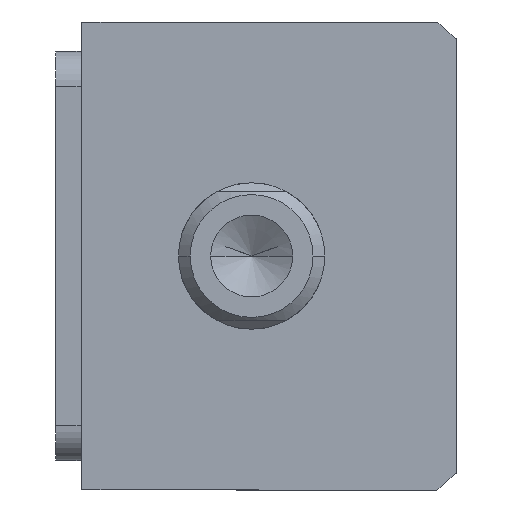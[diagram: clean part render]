
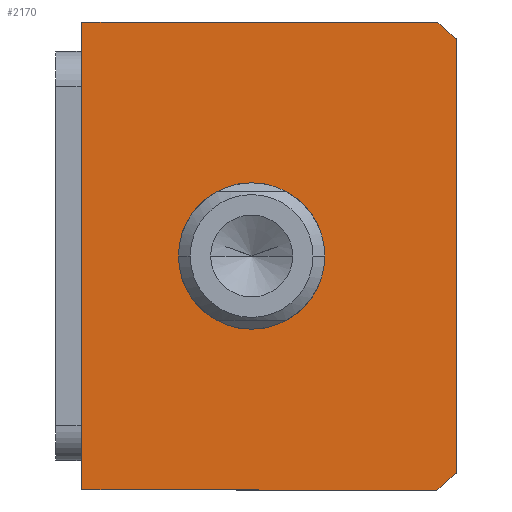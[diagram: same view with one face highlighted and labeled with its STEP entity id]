
A CAD part, front view. The second image highlights one B-rep face of the part: STEP entity #2170.
In plain terms, the highlighted planar face has unit normal (0, -1, 0) as drawn and (0, 0, -1) by its records, which use the part's own axes.
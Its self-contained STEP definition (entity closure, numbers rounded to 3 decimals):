
#205 = AXIS2_PLACEMENT_3D ( 'NONE', #1154, #6987, #1986 ) ;
#585 = EDGE_CURVE ( 'NONE', #5746, #7259, #9619, .T. ) ;
#633 = ORIENTED_EDGE ( 'NONE', *, *, #1572, .F. ) ;
#708 = AXIS2_PLACEMENT_3D ( 'NONE', #5626, #8132, #3166 ) ;
#794 = EDGE_CURVE ( 'NONE', #10099, #3743, #6409, .T. ) ;
#1010 = CARTESIAN_POINT ( 'NONE',  ( -40., -32., 0. ) ) ;
#1154 = CARTESIAN_POINT ( 'NONE',  ( 0., 3., 0. ) ) ;
#1572 = EDGE_CURVE ( 'NONE', #10095, #9011, #2473, .T. ) ;
#1779 = ORIENTED_EDGE ( 'NONE', *, *, #794, .T. ) ;
#1856 = CARTESIAN_POINT ( 'NONE',  ( -40., 32., 0. ) ) ;
#1882 = CIRCLE ( 'NONE', #5928, 12.5 ) ;
#1986 = DIRECTION ( 'NONE',  ( 1., 0., 0. ) ) ;
#2118 = EDGE_CURVE ( 'NONE', #3743, #10099, #1882, .T. ) ;
#2170 = ADVANCED_FACE ( 'NONE', ( #5809, #3576 ), #2324, .F. ) ;
#2194 = VERTEX_POINT ( 'NONE', #7325 ) ;
#2324 = PLANE ( 'NONE',  #708 ) ;
#2370 = CIRCLE ( 'NONE', #205, 51. ) ;
#2473 = LINE ( 'NONE', #3727, #7172 ) ;
#2681 = DIRECTION ( 'NONE',  ( 1., 0., 0. ) ) ;
#2706 = DIRECTION ( 'NONE',  ( -1., 0., 0. ) ) ;
#3150 = DIRECTION ( 'NONE',  ( 0., 1., 0. ) ) ;
#3166 = DIRECTION ( 'NONE',  ( 1., 0., 0. ) ) ;
#3469 = EDGE_CURVE ( 'NONE', #2194, #5746, #7111, .T. ) ;
#3576 = FACE_OUTER_BOUND ( 'NONE', #6011, .T. ) ;
#3727 = CARTESIAN_POINT ( 'NONE',  ( 40., 32., 0. ) ) ;
#3743 = VERTEX_POINT ( 'NONE', #6368 ) ;
#3889 = DIRECTION ( 'NONE',  ( 0., 0., 1. ) ) ;
#3955 = VECTOR ( 'NONE', #2681, 1000. ) ;
#4248 = AXIS2_PLACEMENT_3D ( 'NONE', #5379, #6136, #6964 ) ;
#4294 = DIRECTION ( 'NONE',  ( 1., 0., 0. ) ) ;
#4355 = CARTESIAN_POINT ( 'NONE',  ( -40., 32., 0. ) ) ;
#4913 = VECTOR ( 'NONE', #8591, 1000. ) ;
#5089 = ORIENTED_EDGE ( 'NONE', *, *, #5588, .F. ) ;
#5159 = ORIENTED_EDGE ( 'NONE', *, *, #2118, .T. ) ;
#5379 = CARTESIAN_POINT ( 'NONE',  ( 0., 3., 0. ) ) ;
#5406 = LINE ( 'NONE', #1010, #3955 ) ;
#5588 = EDGE_CURVE ( 'NONE', #7259, #6234, #5406, .T. ) ;
#5626 = CARTESIAN_POINT ( 'NONE',  ( 0., 0., 0. ) ) ;
#5661 = LINE ( 'NONE', #1856, #9512 ) ;
#5746 = VERTEX_POINT ( 'NONE', #8014 ) ;
#5809 = FACE_BOUND ( 'NONE', #9363, .T. ) ;
#5880 = CARTESIAN_POINT ( 'NONE',  ( 37.094, -32., 0. ) ) ;
#5928 = AXIS2_PLACEMENT_3D ( 'NONE', #8856, #3889, #9678 ) ;
#6011 = EDGE_LOOP ( 'NONE', ( #8664, #7759, #6149, #633, #7152, #5089 ) ) ;
#6136 = DIRECTION ( 'NONE',  ( 0., 0., 1. ) ) ;
#6149 = ORIENTED_EDGE ( 'NONE', *, *, #6310, .F. ) ;
#6234 = VERTEX_POINT ( 'NONE', #5880 ) ;
#6310 = EDGE_CURVE ( 'NONE', #9011, #2194, #5661, .T. ) ;
#6368 = CARTESIAN_POINT ( 'NONE',  ( -12.5, 3., 0. ) ) ;
#6409 = CIRCLE ( 'NONE', #4248, 12.5 ) ;
#6557 = CARTESIAN_POINT ( 'NONE',  ( 12.5, 3., 0. ) ) ;
#6964 = DIRECTION ( 'NONE',  ( 1., 0., 0. ) ) ;
#6987 = DIRECTION ( 'NONE',  ( 0., 0., 1. ) ) ;
#7111 = LINE ( 'NONE', #4355, #4913 ) ;
#7152 = ORIENTED_EDGE ( 'NONE', *, *, #7746, .F. ) ;
#7172 = VECTOR ( 'NONE', #3150, 1000. ) ;
#7259 = VERTEX_POINT ( 'NONE', #7290 ) ;
#7290 = CARTESIAN_POINT ( 'NONE',  ( -37.094, -32., 0. ) ) ;
#7325 = CARTESIAN_POINT ( 'NONE',  ( -40., 32., 0. ) ) ;
#7746 = EDGE_CURVE ( 'NONE', #6234, #10095, #2370, .T. ) ;
#7759 = ORIENTED_EDGE ( 'NONE', *, *, #3469, .F. ) ;
#8014 = CARTESIAN_POINT ( 'NONE',  ( -40., -28.639, 0. ) ) ;
#8132 = DIRECTION ( 'NONE',  ( 0., 0., 1. ) ) ;
#8199 = CARTESIAN_POINT ( 'NONE',  ( 40., -28.639, 0. ) ) ;
#8345 = AXIS2_PLACEMENT_3D ( 'NONE', #10547, #10465, #4294 ) ;
#8591 = DIRECTION ( 'NONE',  ( 0., -1., 0. ) ) ;
#8664 = ORIENTED_EDGE ( 'NONE', *, *, #585, .F. ) ;
#8787 = CARTESIAN_POINT ( 'NONE',  ( 40., 32., 0. ) ) ;
#8856 = CARTESIAN_POINT ( 'NONE',  ( 0., 3., 0. ) ) ;
#9011 = VERTEX_POINT ( 'NONE', #8787 ) ;
#9363 = EDGE_LOOP ( 'NONE', ( #1779, #5159 ) ) ;
#9512 = VECTOR ( 'NONE', #2706, 1000. ) ;
#9619 = CIRCLE ( 'NONE', #8345, 51. ) ;
#9678 = DIRECTION ( 'NONE',  ( 1., 0., 0. ) ) ;
#10095 = VERTEX_POINT ( 'NONE', #8199 ) ;
#10099 = VERTEX_POINT ( 'NONE', #6557 ) ;
#10465 = DIRECTION ( 'NONE',  ( 0., 0., 1. ) ) ;
#10547 = CARTESIAN_POINT ( 'NONE',  ( 0., 3., 0. ) ) ;
